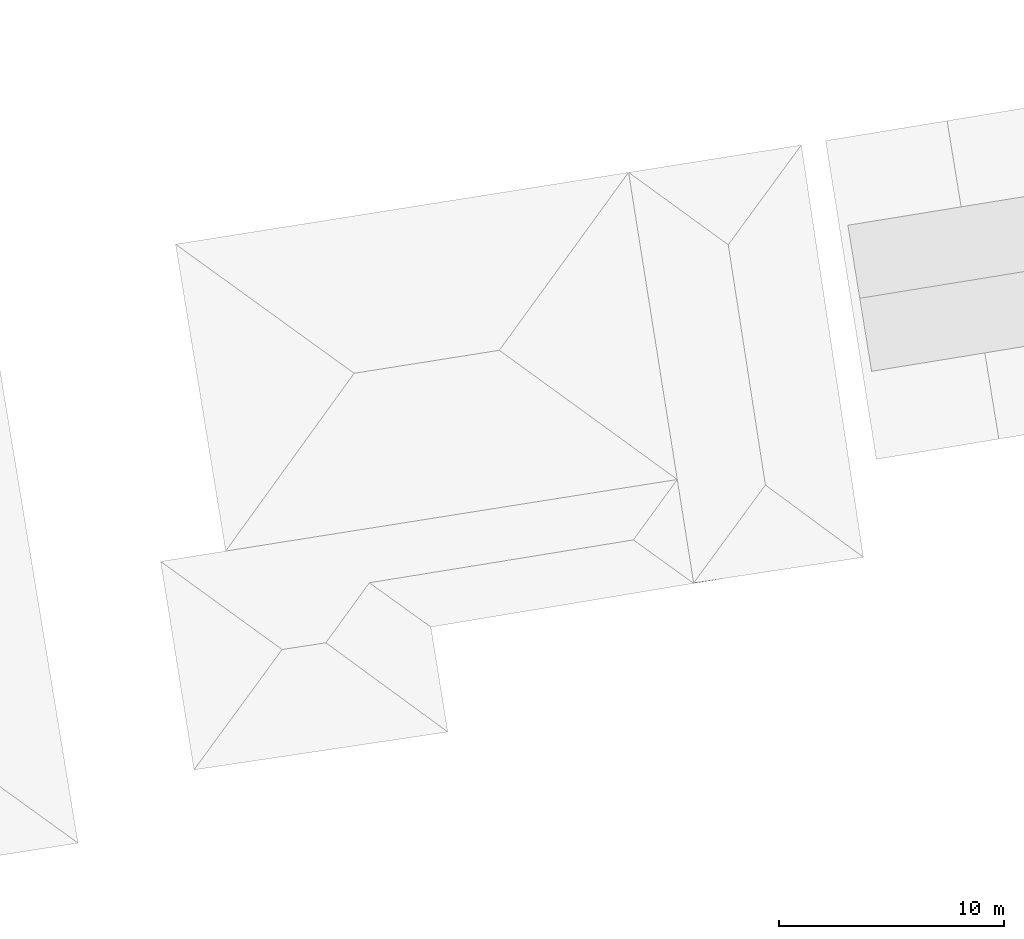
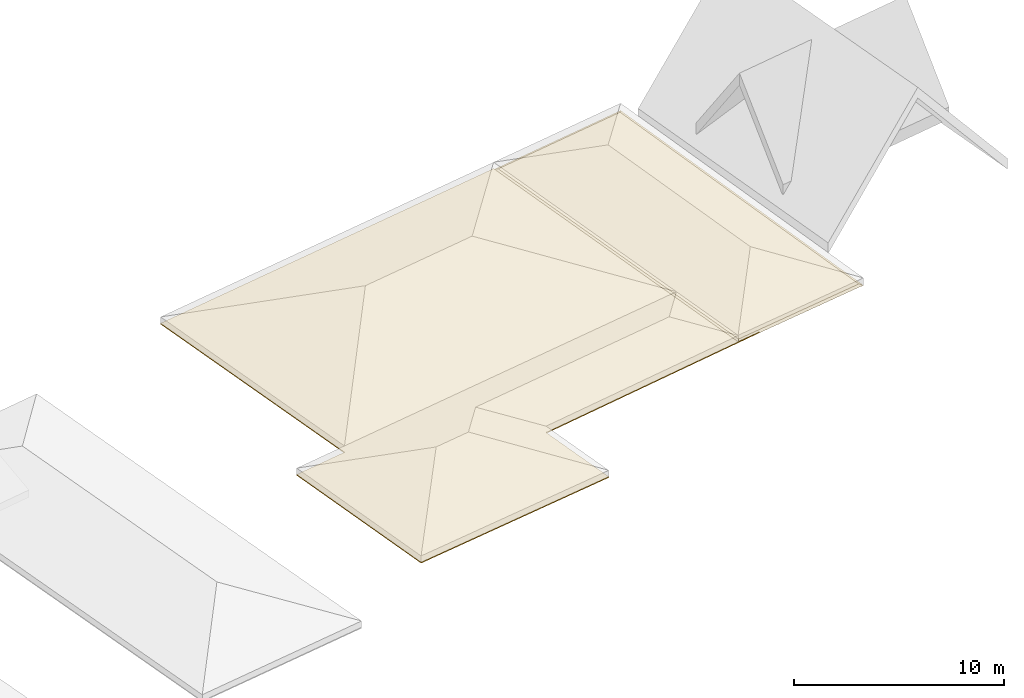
# One storey, part 5 of 5: 1 covering.
"""IFC2X3 building model written with IfcOpenShell, lengths in metres."""

from ifc_helpers import new_model, entity, si_unit, converted_unit, derived_unit, direction, frame, origin, place, context, subcontext, project, spatial, faceted_brep, material, layer, layer_set, layer_usage, type_object, element, save


model = new_model("IFC2X3")

# Units and contexts
model_context = context("Model", 3, precision=1e-05, world=origin(), true_north=direction((6.123031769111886e-17, 1.0)))
body_context = subcontext(model_context, "Body", "Model", "MODEL_VIEW")
ifc_project = project(units=[si_unit("LENGTHUNIT", "METRE"), si_unit("AREAUNIT", "SQUARE_METRE"), si_unit("VOLUMEUNIT", "CUBIC_METRE"), converted_unit("PLANEANGLEUNIT", "DEGREE", entity("IfcRatioMeasure", 0.017453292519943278), si_unit("PLANEANGLEUNIT", "RADIAN"), dimensions=[0, 0, 0, 0, 0, 0, 0]), si_unit("MASSUNIT", "GRAM", prefix="KILO"), derived_unit("MASSDENSITYUNIT", [(si_unit("MASSUNIT", "GRAM", prefix="KILO"), 1), (si_unit("LENGTHUNIT", "METRE"), -3)]), derived_unit("IONCONCENTRATIONUNIT", [(si_unit("MASSUNIT", "GRAM", prefix="KILO"), 1), (si_unit("LENGTHUNIT", "METRE"), -3)]), derived_unit("MOMENTOFINERTIAUNIT", [(si_unit("LENGTHUNIT", "METRE"), 4)]), si_unit("TIMEUNIT", "SECOND"), si_unit("FREQUENCYUNIT", "HERTZ"), si_unit("THERMODYNAMICTEMPERATUREUNIT", "DEGREE_CELSIUS"), derived_unit("THERMALTRANSMITTANCEUNIT", [(si_unit("MASSUNIT", "GRAM", prefix="KILO"), 1), (si_unit("THERMODYNAMICTEMPERATUREUNIT", "KELVIN"), -1), (si_unit("TIMEUNIT", "SECOND"), -3)]), derived_unit("THERMALCONDUCTANCEUNIT", [(si_unit("MASSUNIT", "GRAM", prefix="KILO"), 1), (si_unit("THERMODYNAMICTEMPERATUREUNIT", "KELVIN"), -1), (si_unit("TIMEUNIT", "SECOND"), -3), (si_unit("LENGTHUNIT", "METRE"), 1)]), derived_unit("VOLUMETRICFLOWRATEUNIT", [(si_unit("LENGTHUNIT", "METRE"), 3), (si_unit("TIMEUNIT", "SECOND"), -1)]), derived_unit("MASSFLOWRATEUNIT", [(si_unit("MASSUNIT", "GRAM", prefix="KILO"), 1), (si_unit("TIMEUNIT", "SECOND"), -1)]), derived_unit("ROTATIONALFREQUENCYUNIT", [(si_unit("TIMEUNIT", "SECOND"), -1)]), si_unit("ELECTRICCURRENTUNIT", "AMPERE"), si_unit("ELECTRICVOLTAGEUNIT", "VOLT"), si_unit("POWERUNIT", "WATT"), si_unit("FORCEUNIT", "NEWTON", prefix="KILO"), si_unit("ILLUMINANCEUNIT", "LUX"), si_unit("LUMINOUSFLUXUNIT", "LUMEN"), si_unit("LUMINOUSINTENSITYUNIT", "CANDELA"), derived_unit("USERDEFINED", [(si_unit("MASSUNIT", "GRAM", prefix="KILO"), -1), (si_unit("LENGTHUNIT", "METRE"), -2), (si_unit("TIMEUNIT", "SECOND"), 3), (si_unit("LUMINOUSFLUXUNIT", "LUMEN"), 1)]), derived_unit("USERDEFINED", [(si_unit("MASSUNIT", "GRAM", prefix="KILO"), 1), (si_unit("TIMEUNIT", "SECOND"), -3), (si_unit("LENGTHUNIT", "METRE"), 3), (si_unit("ELECTRICCURRENTUNIT", "AMPERE"), -2)]), derived_unit("SOUNDPOWERUNIT", [(si_unit("MASSUNIT", "GRAM", prefix="KILO"), 1), (si_unit("TIMEUNIT", "SECOND"), -3), (si_unit("LENGTHUNIT", "METRE"), 2)]), derived_unit("SOUNDPRESSUREUNIT", [(si_unit("MASSUNIT", "GRAM", prefix="KILO"), 1), (si_unit("LENGTHUNIT", "METRE"), -1), (si_unit("TIMEUNIT", "SECOND"), -2)]), derived_unit("LINEARVELOCITYUNIT", [(si_unit("LENGTHUNIT", "METRE"), 1), (si_unit("TIMEUNIT", "SECOND"), -1)]), si_unit("PRESSUREUNIT", "PASCAL"), derived_unit("USERDEFINED", [(si_unit("MASSUNIT", "GRAM", prefix="KILO"), 1), (si_unit("LENGTHUNIT", "METRE"), -2), (si_unit("TIMEUNIT", "SECOND"), -2)]), derived_unit("LINEARFORCEUNIT", [(si_unit("MASSUNIT", "GRAM", prefix="KILO"), 1), (si_unit("TIMEUNIT", "SECOND"), -2)]), derived_unit("PLANARFORCEUNIT", [(si_unit("MASSUNIT", "GRAM", prefix="KILO"), 1), (si_unit("LENGTHUNIT", "METRE"), -1), (si_unit("TIMEUNIT", "SECOND"), -2)]), derived_unit("SPECIFICHEATCAPACITYUNIT", [(si_unit("THERMODYNAMICTEMPERATUREUNIT", "KELVIN"), -1), (si_unit("LENGTHUNIT", "METRE"), 2), (si_unit("TIMEUNIT", "SECOND"), -2)]), derived_unit("HEATINGVALUEUNIT", [(si_unit("LENGTHUNIT", "METRE"), 2), (si_unit("TIMEUNIT", "SECOND"), -2)]), derived_unit("VAPORPERMEABILITYUNIT", [(si_unit("LENGTHUNIT", "METRE"), -1), (si_unit("TIMEUNIT", "SECOND"), 1)]), derived_unit("DYNAMICVISCOSITYUNIT", [(si_unit("MASSUNIT", "GRAM", prefix="KILO"), 1), (si_unit("TIMEUNIT", "SECOND"), -1), (si_unit("LENGTHUNIT", "METRE"), -1)]), derived_unit("THERMALEXPANSIONCOEFFICIENTUNIT", [(si_unit("THERMODYNAMICTEMPERATUREUNIT", "KELVIN"), -1)]), derived_unit("MODULUSOFELASTICITYUNIT", [(si_unit("MASSUNIT", "GRAM", prefix="KILO"), 1), (si_unit("LENGTHUNIT", "METRE"), -1), (si_unit("TIMEUNIT", "SECOND"), -2)]), derived_unit("ISOTHERMALMOISTURECAPACITYUNIT", [(si_unit("LENGTHUNIT", "METRE"), 3), (si_unit("MASSUNIT", "GRAM", prefix="KILO"), -1)]), derived_unit("MOISTUREDIFFUSIVITYUNIT", [(si_unit("TIMEUNIT", "SECOND"), -1), (si_unit("LENGTHUNIT", "METRE"), 2)])], contexts=[model_context])

# Site, building, storey
site_placement = place(None, origin())
site = spatial("IfcSite", under=ifc_project, at=site_placement, Name="Default", CompositionType="ELEMENT")
building_placement = place(site_placement, origin())
building = spatial("IfcBuilding", under=site, at=building_placement, Name="Projeto", CompositionType="ELEMENT")
storey_placement = place(building_placement, frame((0.0, 0.0, 3.0)))
storey = spatial("IfcBuildingStorey", under=building, at=storey_placement, Name="Segundo Pavimento", CompositionType="ELEMENT", Elevation=3.0000000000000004)

# Covering
ifc_material_1 = material(Name="Camada de suporte de metal")
ifc_layer_1 = layer(ifc_material_1, 0.045)
ifc_material_2 = material(Name="Placa de gesso de parede")
ifc_layer_2 = layer(ifc_material_2, 0.011999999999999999)
ifc_layer_set = layer_set([ifc_layer_1, ifc_layer_2], Name="Forro composto:Plano")
ifc_layer_usage = layer_usage(ifc_layer_set, "AXIS3", "POSITIVE", 0.0)
covering_type = type_object("IfcCoveringType", Name="Forro composto:Plano", PredefinedType="CEILING")
covering_placement = place(storey_placement, frame((-19.18802429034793, -62.557797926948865, 0.8999999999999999)))
element("IfcCovering", 1, at=covering_placement, inside=storey, type_object=covering_type, material=ifc_layer_usage, Name="Forro composto:Plano", ObjectType="Forro composto:Plano", PredefinedType="CEILING", context=body_context, shape_type="Brep", body=[
    faceted_brep([(31.069839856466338, 9.58361336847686, 0.05700000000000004), (28.356298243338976, 27.603796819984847, 0.05700000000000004), (20.985257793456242, 26.435359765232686, 0.05700000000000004), (23.830180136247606, 8.488276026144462, 0.05700000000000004), (0.6630919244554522, 23.372507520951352, 0.0), (20.80606418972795, 26.565516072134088, 0.0), (28.48765774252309, 27.78318115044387, 0.0), (31.248003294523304, 9.452180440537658, 0.0), (25.005299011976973, 8.5076792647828, 0.0), (12.021390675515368, 6.349536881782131, 0.0), (12.771489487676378, 1.6862602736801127, 0.0), (1.484757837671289, 0.0, 0.0), (0.0, 9.269918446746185, 0.0), (2.8922715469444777, 9.728393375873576, 0.0), (23.699851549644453, 8.310169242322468, 0.0), (0.6630919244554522, 23.372507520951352, 0.05700000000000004), (20.80606418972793, 26.56551607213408, 0.05700000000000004), (2.8922715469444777, 9.728393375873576, 0.05700000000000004), (0.0, 9.269918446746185, 0.05700000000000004), (1.484757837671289, 0.0, 0.05700000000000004), (12.771489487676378, 1.6862602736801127, 0.05700000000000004), (12.021390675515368, 6.349536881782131, 0.05700000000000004), (25.005299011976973, 8.5076792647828, 0.05700000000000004), (23.702859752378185, 8.291192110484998, 0.05700000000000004), (22.970518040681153, 12.911141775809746, 0.05700000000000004), (23.699851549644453, 8.310169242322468, 0.05700000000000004)], [[[0, 1, 2, 3]], [[4, 5, 6, 7, 8, 9, 10, 11, 12, 13]], [[6, 1, 0, 7]], [[1, 6, 5, 2]], [[14, 8, 7, 0, 3]], [[5, 14, 3, 2]], [[15, 16, 5, 4]], [[17, 15, 4, 13]], [[18, 17, 13, 12]], [[19, 18, 12, 11]], [[20, 19, 11, 10]], [[21, 20, 10, 9]], [[22, 23, 21, 9, 8]], [[14, 5, 16, 24, 25]], [[8, 14, 25, 22]], [[16, 15, 17, 18, 19, 20, 21, 23, 22, 25, 24]]]),
])

save(model, "model.ifc")
